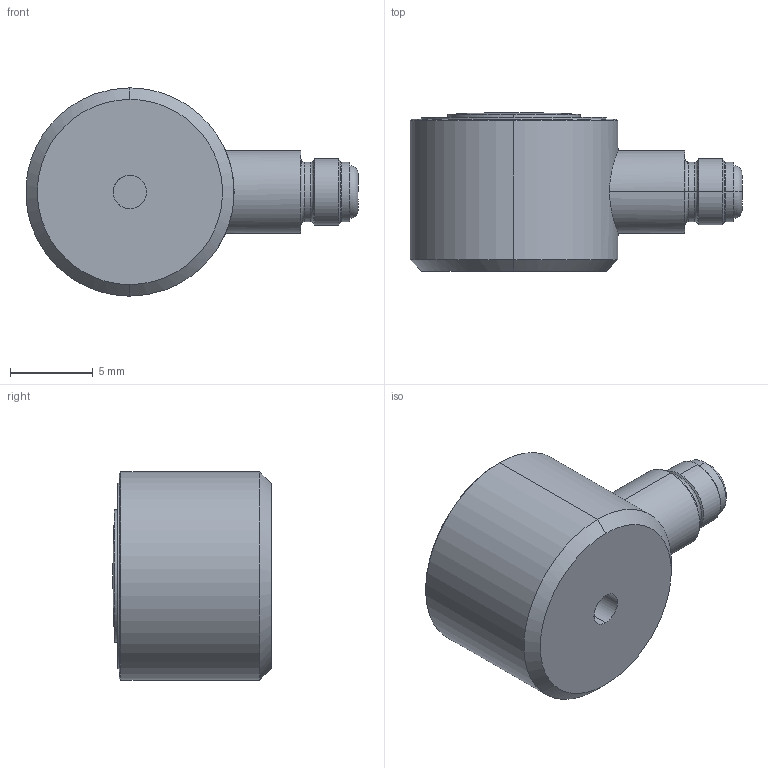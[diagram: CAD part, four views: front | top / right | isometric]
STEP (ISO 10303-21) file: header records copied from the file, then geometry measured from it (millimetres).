
FILE_DESCRIPTION (( 'STEP AP214' ), '1' );
FILE_NAME ('18007415.STEP', '2024-09-30T20:33:14', ( '' ), ( '' ), 'SwSTEP 2.0', 'SolidWorks 2017', '' );
FILE_SCHEMA (( 'AUTOMOTIVE_DESIGN' ));
Length unit declared in the file: millimetre
Products named in the file (1): 18007415
Bounding box: 20.09 x 9.6 x 12.6 mm (x, y, z)
Volume: 1262.3 mm3; surface area: 781.7 mm2
Topology: 1 solids, 1 shells, 117 faces, 260 edges, 159 vertices
Faces by surface type: torus 42, cylinder 38, plane 23, cone 12, sphere 2
Entity records: 5505 total; most frequent: CARTESIAN_POINT 1653, DIRECTION 530, ORIENTED_EDGE 520, EDGE_CURVE 260, AXIS2_PLACEMENT_3D 228, VERTEX_POINT 159, EDGE_LOOP 131, UNCERTAINTY_MEASURE_WITH_UNIT 120
